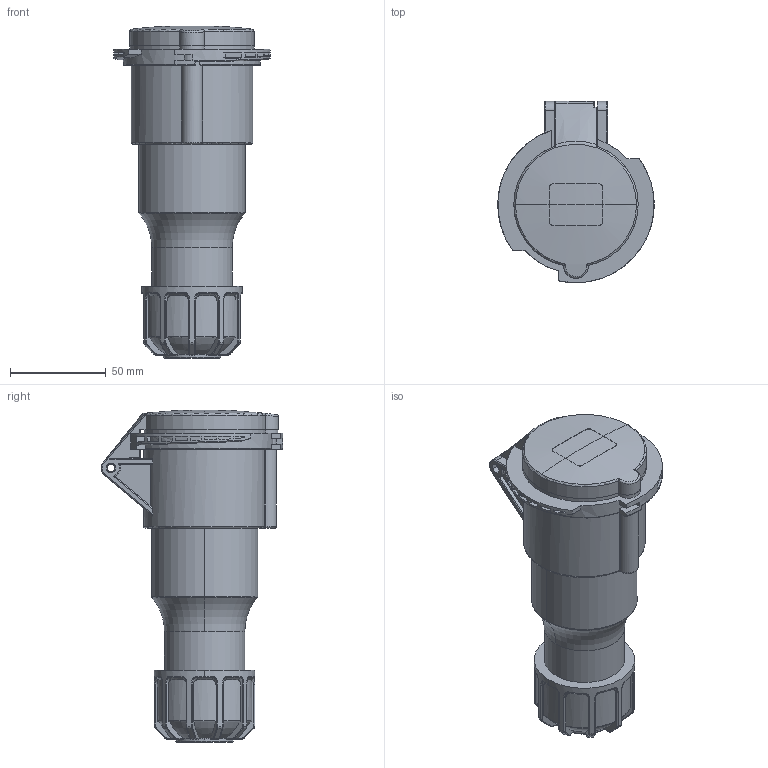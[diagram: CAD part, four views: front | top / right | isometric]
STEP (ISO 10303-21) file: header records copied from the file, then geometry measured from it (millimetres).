
FILE_DESCRIPTION(('FreeCAD Model'),'2;1');
FILE_NAME('Open CASCADE Shape Model','2026-02-04T10:54:02',(''),(''), 'Open CASCADE STEP processor 7.8','FreeCAD','Unknown');
FILE_SCHEMA(('AUTOMOTIVE_DESIGN { 1 0 10303 214 1 1 1 1 }'));
Length unit declared in the file: millimetre
Products named in the file (4): TL3T32443; Tampa; Prensa cabo; Corpo tomada
Assembly tree (3 placements, depth 2):
  TL3T32443
    Tampa
    Prensa cabo
    Corpo tomada
Bounding box: 81.7 x 94.92 x 173.58 mm (x, y, z)
Volume: 402877.9 mm3; surface area: 68653.5 mm2
Topology: 3 solids, 8 shells, 660 faces, 1696 edges, 1068 vertices
Faces by surface type: plane 215, cylinder 214, bspline 133, torus 69, cone 22, sphere 7
Full cylindrical faces by diameter (mm): 42 x1
Entity records: 31091 total; most frequent: CARTESIAN_POINT 16168, ORIENTED_EDGE 3386, DIRECTION 2738, EDGE_CURVE 1693, VERTEX_POINT 1068, AXIS2_PLACEMENT_3D 1060, FACE_BOUND 687, EDGE_LOOP 687
